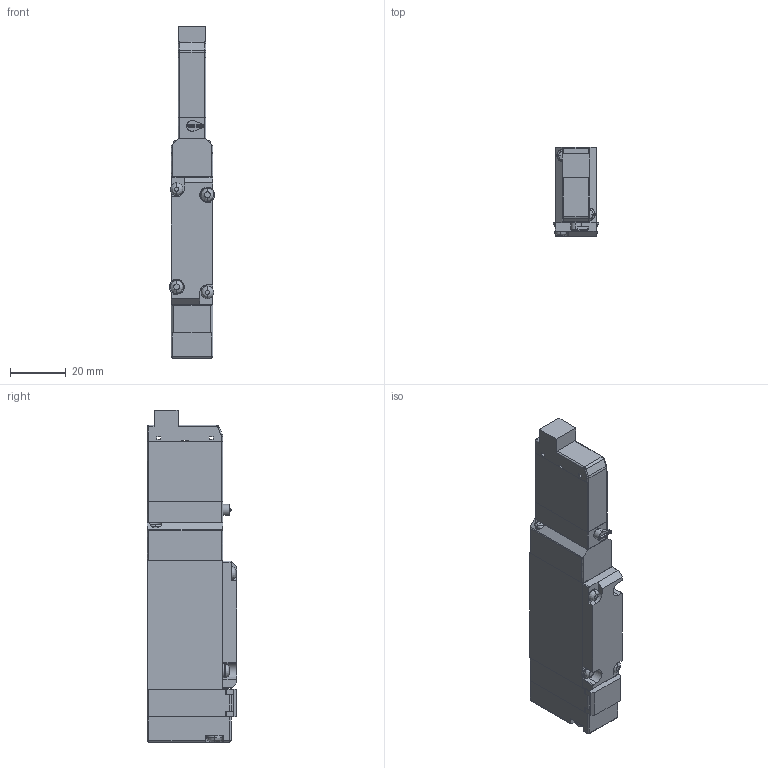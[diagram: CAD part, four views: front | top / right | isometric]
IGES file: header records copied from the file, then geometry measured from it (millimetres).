
Start section: ------------------------------------------------------------------------
Global section: file name: D:\ICADMX\tmp\trans3d_spg\CVICAD02.7120.F15T1-R-A1-PN_16939.igs; native system: spGate; preprocessor: ver12.6.6; author: Unknown; organization: Unknown; date: 210712.184935; units: millimetre
Bounding box: 16.2 x 32 x 119 mm (x, y, z)
Volume: 44904.2 mm3; surface area: 17341.9 mm2
Topology: 7 solids, 7 shells, 353 faces, 916 edges, 581 vertices
Faces by surface type: bspline 353
